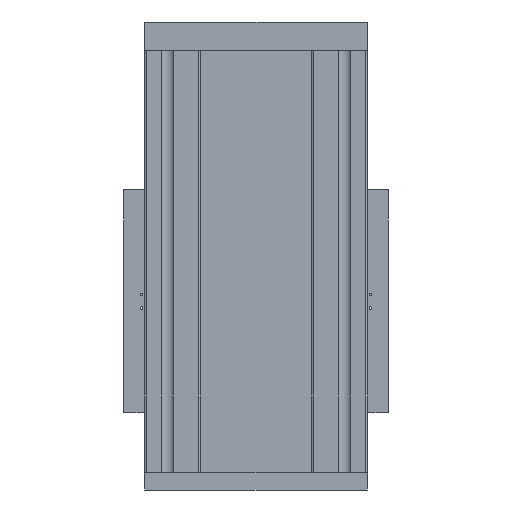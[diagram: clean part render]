
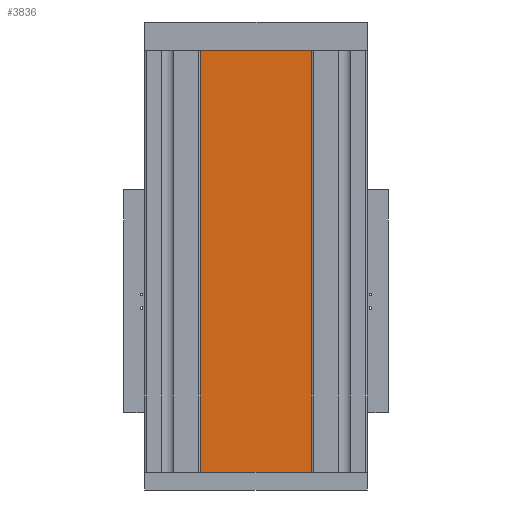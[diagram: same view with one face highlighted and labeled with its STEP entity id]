
A CAD part, front view. The second image highlights one B-rep face of the part: STEP entity #3836.
In plain terms, the highlighted planar face has unit normal (0, -1, 0).
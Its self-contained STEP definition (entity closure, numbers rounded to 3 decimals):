
#2414=FACE_OUTER_BOUND('',#14732,.T.);
#3836=ADVANCED_FACE('NONE',(#2414),#5906,.F.);
#5906=PLANE('',#37583);
#7363=LINE('',#51956,#10178);
#7364=LINE('',#51959,#10179);
#7365=LINE('',#51961,#10180);
#7366=LINE('',#51963,#10181);
#10178=VECTOR('',#41717,1.);
#10179=VECTOR('',#41718,1.);
#10180=VECTOR('',#41719,1.);
#10181=VECTOR('',#41720,1.);
#14732=EDGE_LOOP('',(#18141,#18142,#18143,#18144));
#18141=ORIENTED_EDGE('',*,*,#31168,.F.);
#18142=ORIENTED_EDGE('',*,*,#31169,.F.);
#18143=ORIENTED_EDGE('',*,*,#31170,.T.);
#18144=ORIENTED_EDGE('',*,*,#31171,.F.);
#27522=VERTEX_POINT('',#51957);
#27523=VERTEX_POINT('',#51958);
#27524=VERTEX_POINT('',#51960);
#27525=VERTEX_POINT('',#51962);
#31168=EDGE_CURVE('NONE',#27522,#27523,#7363,.T.);
#31169=EDGE_CURVE('',#27524,#27522,#7364,.T.);
#31170=EDGE_CURVE('NONE',#27524,#27525,#7365,.T.);
#31171=EDGE_CURVE('NONE',#27523,#27525,#7366,.T.);
#37583=AXIS2_PLACEMENT_3D('',#51964,#41721,#41722);
#41717=DIRECTION('',(-1.,0.,0.));
#41718=DIRECTION('',(0.,0.,-1.));
#41719=DIRECTION('',(-1.,0.,0.));
#41720=DIRECTION('',(0.,0.,1.));
#41721=DIRECTION('',(0.,1.,0.));
#41722=DIRECTION('',(0.,0.,1.));
#51956=CARTESIAN_POINT('',(-40.653,-21.877,146.));
#51957=CARTESIAN_POINT('',(34.347,-21.877,146.));
#51958=CARTESIAN_POINT('',(-40.653,-21.877,146.));
#51959=CARTESIAN_POINT('',(34.347,-21.877,146.));
#51960=CARTESIAN_POINT('',(34.347,-21.877,430.));
#51961=CARTESIAN_POINT('',(-31.838,-21.877,430.));
#51962=CARTESIAN_POINT('',(-40.653,-21.877,430.));
#51963=CARTESIAN_POINT('',(-40.653,-21.877,146.));
#51964=CARTESIAN_POINT('',(-40.653,-21.877,146.));
